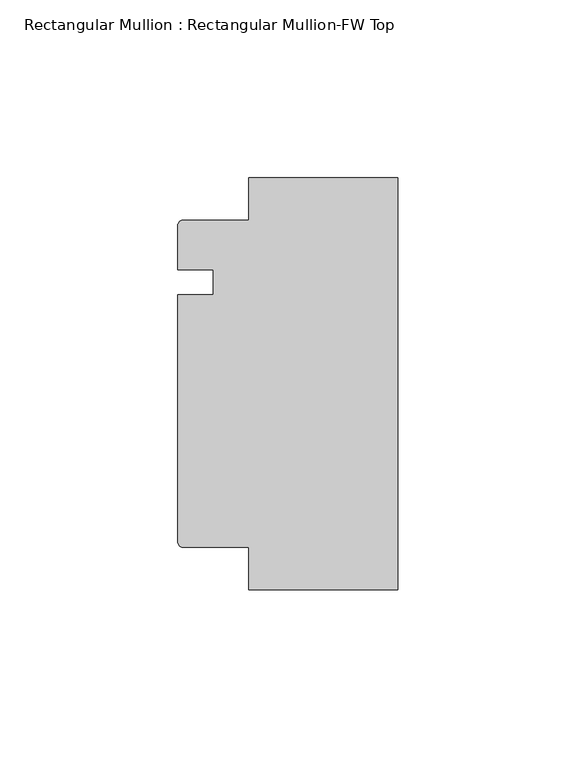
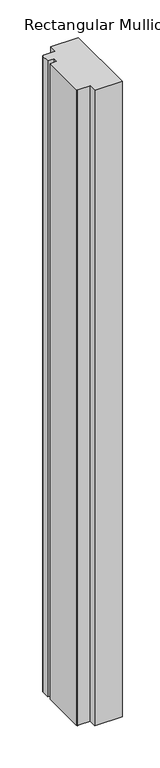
"""IFC4 building model written with IfcOpenShell, lengths in millimetres: member geometry, Rectangular Mullion : Rectangular Mullion-FW Top."""

from ifc_helpers import new_model, si_unit, point, frame, frame_2d, origin, place, context, project, spatial, polyline, circle_curve, trimmed, segment, composite_curve, outline, extrude, source, transform, mapped, element, save


def rectangular_mullion_rectangular_mullion_fw_top_ee255a1c(model_context):
    return source(origin(), model_context, "Body", "SweptSolid", [
        extrude(outline(composite_curve([segment(trimmed(circle_curve(frame_2d((-60.5201031, -90.5201031)), 1.4798969), [point((-60.5201031, -92.0))], [point((-62.0, -90.5201031))], False, "CARTESIAN"), True, "CONTINUOUS"), segment(polyline([(-62.0, -90.5201031), (-62.0, -21.0), (-52.0, -21.0), (-52.0, -14.0), (-62.0, -14.0), (-62.0, -1.4798969)]), True, "CONTINUOUS"), segment(trimmed(circle_curve(frame_2d((-60.5201031, -1.4798969)), 1.4798969), [point((-62.0, -1.4798969))], [point((-60.5201031, 0.0))], False, "CARTESIAN"), True, "CONTINUOUS"), segment(polyline([(-60.5201031, 0.0), (-42.0, 0.0), (-42.0, 12.0), (0.0, 12.0), (0.0, -104.0), (-42.0, -104.0), (-42.0, -92.0), (-60.5201031, -92.0)]), True, "CONTINUOUS")], self_intersect=False)), frame((0.0, 0.0, -1028.0), z_axis=(0.0, 0.0, 1.0), x_axis=(1.0, 0.0, 0.0)), (0.0, 0.0, 1.0), 1028.0),
    ])


if __name__ == "__main__":
    model = new_model("IFC4")
    model_context = context("Model", 3, world=origin())
    ifc_project = project(units=[si_unit("LENGTHUNIT", "METRE", prefix="MILLI")], contexts=[model_context])
    site = spatial("IfcSite", under=ifc_project)
    building = spatial("IfcBuilding", under=site)
    placement = place(None, origin())
    rectangular_mullion_rectangular_mullion_fw_top_shape = rectangular_mullion_rectangular_mullion_fw_top_ee255a1c(model_context)
    element("IfcMember", 1, ObjectType="Rectangular Mullion : Rectangular Mullion-FW Top", at=placement, inside=building, context=model_context, shape_type="MappedRepresentation", body=[
        mapped(rectangular_mullion_rectangular_mullion_fw_top_shape, transform((0.0, 0.0, 0.0), x_axis=(1.0, 0.0, 0.0), y_axis=(0.0, 1.0, 0.0), z_axis=(0.0, 0.0, 1.0))),
    ])
    save(model, "model.ifc")
